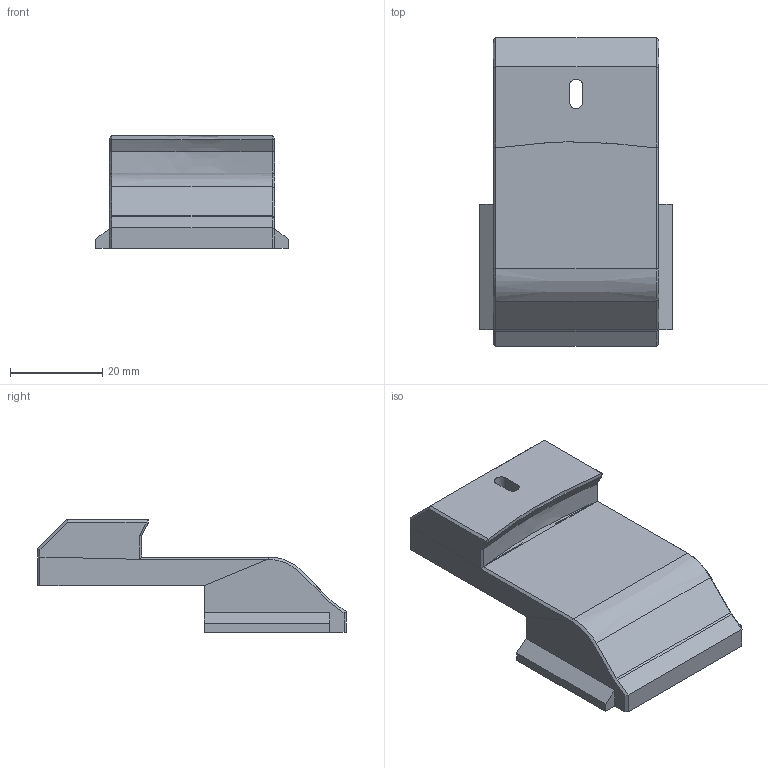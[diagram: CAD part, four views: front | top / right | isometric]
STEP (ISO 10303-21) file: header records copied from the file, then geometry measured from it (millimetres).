
FILE_DESCRIPTION(/* description */ (''),/* implementation_level */ '2;1');
FILE_NAME(/* name */ 'Belt Drum Latch.stp',/* time_stamp */ '2026-07-19T10:50:31-06:00',/* author */ (''),/* organization */ (''),/* preprocessor_version */ 'ST-DEVELOPER v18.102',/* originating_system */ 'SIEMENS PLM Software NX 2027',/* authorisation */ '');
FILE_SCHEMA (('AUTOMOTIVE_DESIGN { 1 0 10303 214 3 1 1 1 }'));
Length unit declared in the file: inch
Products named in the file (1): Belt Drum Latch
Bounding box: 41.66 x 66.8 x 24.37 mm (x, y, z)
Volume: 28625.5 mm3; surface area: 8367.1 mm2
Topology: 1 solids, 1 shells, 57 faces, 135 edges, 79 vertices
Faces by surface type: plane 28, bspline 23, extrusion 3, cylinder 3
Full cylindrical faces by diameter (mm): 7.836 x1
Entity records: 3074 total; most frequent: CARTESIAN_POINT 2006, ORIENTED_EDGE 264, EDGE_CURVE 132, DIRECTION 113, B_SPLINE_CURVE_WITH_KNOTS 89, VERTEX_POINT 79, EDGE_LOOP 61, ADVANCED_FACE 57
